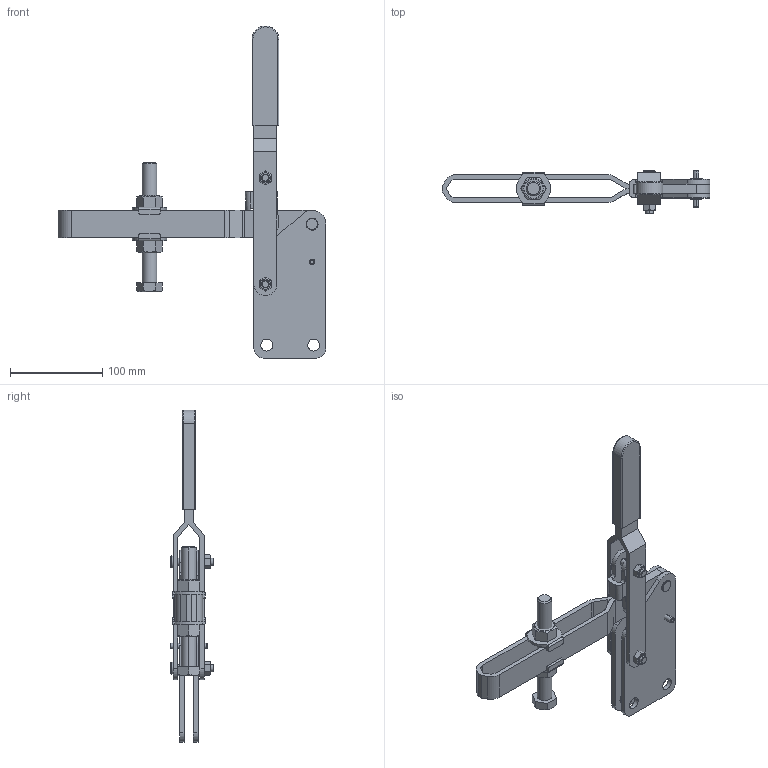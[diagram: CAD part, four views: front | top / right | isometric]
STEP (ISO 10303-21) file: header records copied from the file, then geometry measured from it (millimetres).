
FILE_DESCRIPTION(('CATIA V5 STEP Exchange'),'2;1');
FILE_NAME('D:\Model\toggle\toggle_standard\KJF_055_12S.stp','2005-06-24T05:19:07+00:00',('none'),('none'),'CATIA Version 5 Release 11 (IN-9)','CATIA V5 STEP AP203',' none');
FILE_SCHEMA(('CONFIG_CONTROL_DESIGN'));
Length unit declared in the file: millimetre
Products named in the file (1): Part1
Bounding box: 290 x 47 x 359.5 mm (x, y, z)
Volume: 363920.7 mm3; surface area: 151142.6 mm2
Topology: 17 solids, 17 shells, 312 faces, 770 edges, 500 vertices
Faces by surface type: plane 161, cylinder 111, cone 28, torus 10, bspline 2
Entity records: 9142 total; most frequent: CARTESIAN_POINT 2083, ORIENTED_EDGE 1540, DIRECTION 1192, EDGE_CURVE 770, AXIS2_PLACEMENT_3D 515, VERTEX_POINT 500, VECTOR 448, LINE 448
